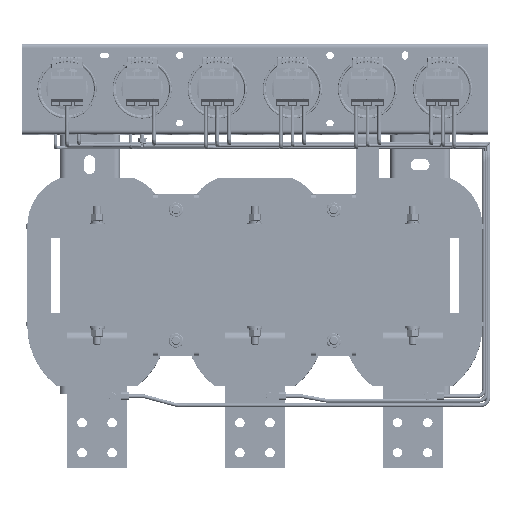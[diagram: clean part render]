
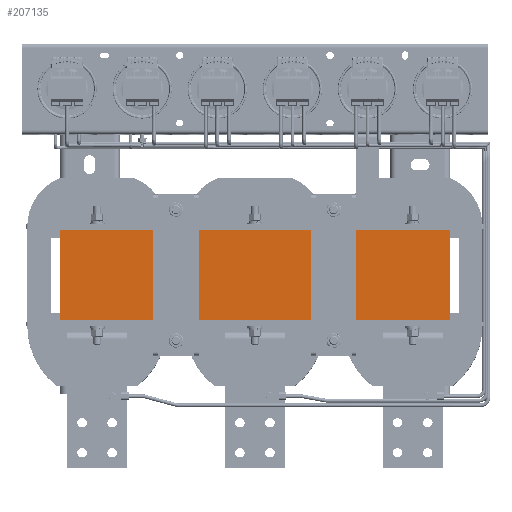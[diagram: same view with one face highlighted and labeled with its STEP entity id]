
A CAD part, top view. The second image highlights one B-rep face of the part: STEP entity #207135.
In plain terms, the highlighted planar face has unit normal (0, 0, 1).
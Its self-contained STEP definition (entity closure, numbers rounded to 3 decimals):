
#1266 = DIRECTION ( 'NONE',  ( 1., 0., 0. ) ) ;
#6890 = ORIENTED_EDGE ( 'NONE', *, *, #102637, .T. ) ;
#7722 = AXIS2_PLACEMENT_3D ( 'NONE', #159626, #192445, #124556 ) ;
#14608 = CARTESIAN_POINT ( 'NONE',  ( -260., 30.912, 600. ) ) ;
#20095 = CARTESIAN_POINT ( 'NONE',  ( -260., 150.916, 600. ) ) ;
#25555 = DIRECTION ( 'NONE',  ( 0., -1., 0. ) ) ;
#34437 = PLANE ( 'NONE',  #7722 ) ;
#35770 = EDGE_CURVE ( 'NONE', #227167, #194092, #45457, .T. ) ;
#37511 = LINE ( 'NONE', #196647, #143793 ) ;
#40303 = VERTEX_POINT ( 'NONE', #14608 ) ;
#41723 = CARTESIAN_POINT ( 'NONE',  ( 0., 150.916, 600. ) ) ;
#43393 = EDGE_CURVE ( 'NONE', #85971, #227167, #212645, .T. ) ;
#43644 = VECTOR ( 'NONE', #25555, 1000. ) ;
#45188 = LINE ( 'NONE', #170412, #183252 ) ;
#45457 = LINE ( 'NONE', #78235, #43644 ) ;
#46626 = ORIENTED_EDGE ( 'NONE', *, *, #35770, .F. ) ;
#56628 = ORIENTED_EDGE ( 'NONE', *, *, #43393, .F. ) ;
#60531 = EDGE_LOOP ( 'NONE', ( #6890, #46626, #56628, #121990 ) ) ;
#78235 = CARTESIAN_POINT ( 'NONE',  ( 260., 152.552, 600. ) ) ;
#85971 = VERTEX_POINT ( 'NONE', #20095 ) ;
#91588 = VECTOR ( 'NONE', #96702, 1000. ) ;
#96702 = DIRECTION ( 'NONE',  ( 1., 0., 0. ) ) ;
#102637 = EDGE_CURVE ( 'NONE', #40303, #194092, #37511, .T. ) ;
#121990 = ORIENTED_EDGE ( 'NONE', *, *, #199321, .T. ) ;
#124556 = DIRECTION ( 'NONE',  ( 1., 0., 0. ) ) ;
#125695 = FACE_OUTER_BOUND ( 'NONE', #60531, .T. ) ;
#143793 = VECTOR ( 'NONE', #1266, 1000. ) ;
#159626 = CARTESIAN_POINT ( 'NONE',  ( -225., 152.552, 600. ) ) ;
#165715 = CARTESIAN_POINT ( 'NONE',  ( 260., 150.916, 600. ) ) ;
#170412 = CARTESIAN_POINT ( 'NONE',  ( -260., 152.552, 600. ) ) ;
#183252 = VECTOR ( 'NONE', #226522, 1000. ) ;
#192445 = DIRECTION ( 'NONE',  ( 0., 0., 1. ) ) ;
#194092 = VERTEX_POINT ( 'NONE', #194391 ) ;
#194391 = CARTESIAN_POINT ( 'NONE',  ( 260., 30.912, 600. ) ) ;
#196647 = CARTESIAN_POINT ( 'NONE',  ( -225., 30.912, 600. ) ) ;
#199321 = EDGE_CURVE ( 'NONE', #85971, #40303, #45188, .T. ) ;
#207135 = ADVANCED_FACE ( 'NONE', ( #125695 ), #34437, .T. ) ;
#212645 = LINE ( 'NONE', #41723, #91588 ) ;
#226522 = DIRECTION ( 'NONE',  ( 0., -1., 0. ) ) ;
#227167 = VERTEX_POINT ( 'NONE', #165715 ) ;
